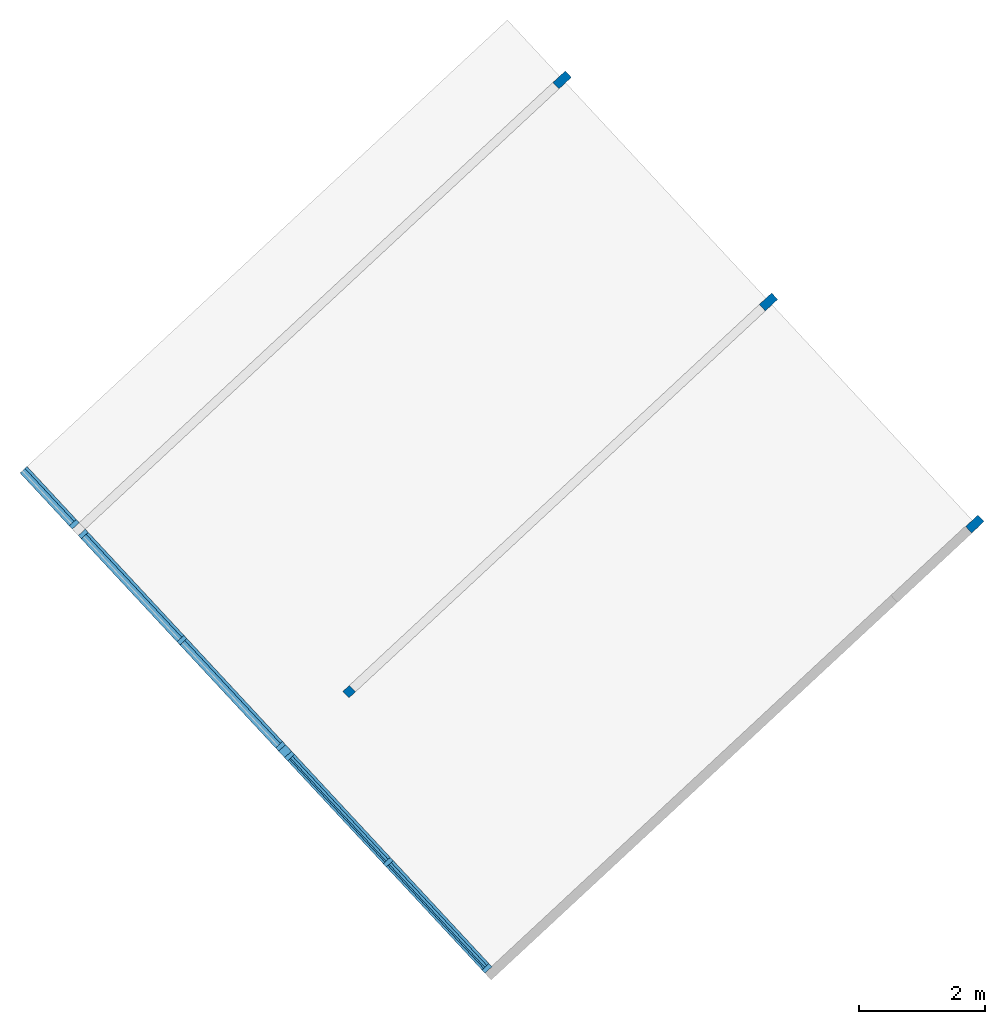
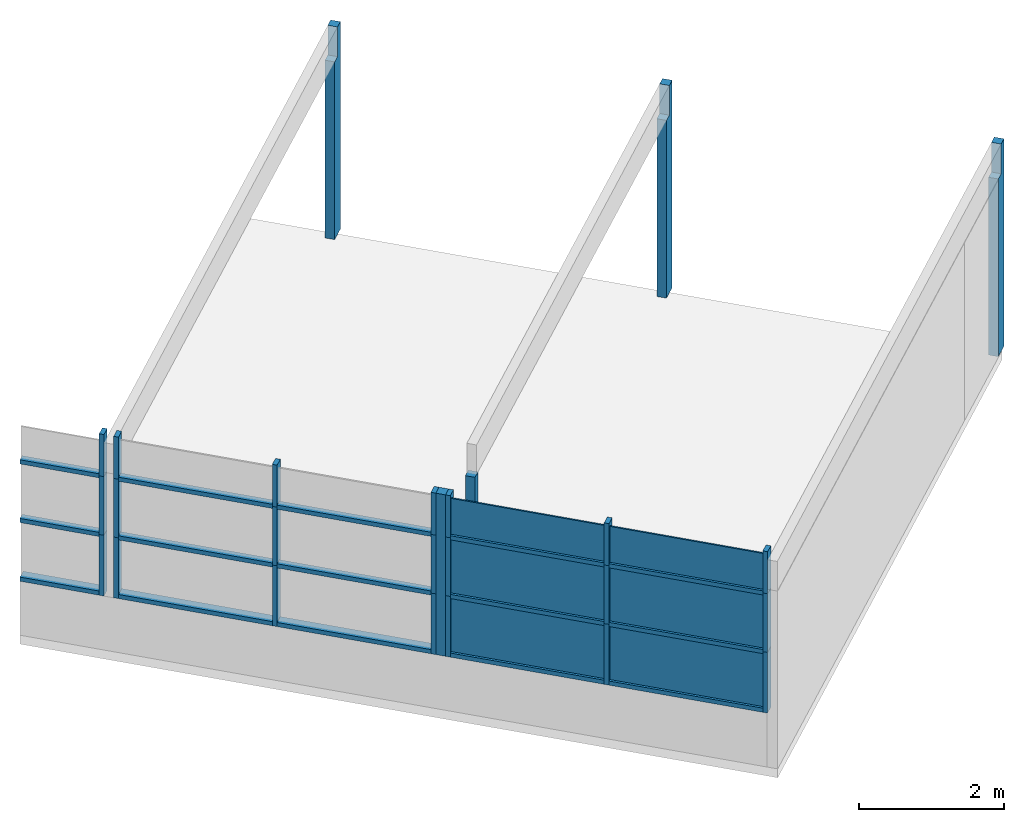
# One storey, part 1 of 3: 36 members, 7 plates, 4 columns, 1 element without a shape of its own.
"""IFC2X3 building model written with IfcOpenShell, lengths in millimetres."""

import ifcopenshell
import ifcopenshell.guid

model = None  # the IFC model being written
_history = None  # IfcOwnerHistory: only IFC2X3 demands one
_inside = {}  # id of a spatial element -> (the spatial element, [elements in it])
_under = {}  # id of a project, library or spatial element -> (it, [spatial elements below it])
_declared = {}  # id of a project -> (the project, [libraries it declares])
_typed = {}  # id of a type object -> (the type object, [elements of that type])
_made_of = {}  # id of a material, layer set ... -> (it, [elements and type objects made of it])


def new_model(schema):
    """Start an empty IFC model of exactly this schema.

    Asked for "IFC4X3", IfcOpenShell would pick the latest addendum, in which some entities
    have other attributes; the version numbers below select the first issue.
    IFC2X3 requires an IfcOwnerHistory on every rooted entity: one is made here for all.
    """
    global model, _history
    if schema == "IFC4X3":
        model = ifcopenshell.file(schema_version=(4, 3, 0, 0))
    else:
        model = ifcopenshell.file(schema=schema)
    _inside.clear()
    _under.clear()
    _declared.clear()
    _typed.clear()
    _made_of.clear()
    _history = None
    if model.schema == "IFC2X3":
        org = make("IfcOrganization", Name="unknown")
        user = make(
            "IfcPersonAndOrganization",
            ThePerson=make("IfcPerson", FamilyName="unknown"),
            TheOrganization=org,
        )
        app = make(
            "IfcApplication",
            ApplicationDeveloper=org,
            Version="unknown",
            ApplicationFullName="unknown",
            ApplicationIdentifier="unknown",
        )
        _history = make(
            "IfcOwnerHistory",
            OwningUser=user,
            OwningApplication=app,
            ChangeAction="ADDED",
            CreationDate=0,
        )
    return model


def make(cls, **values):
    """One entity of the class cls with the attributes given. An attribute that is None is left unset."""
    return model.create_entity(
        cls, **{name: value for name, value in values.items() if value is not None}
    )


def entity(cls, *values):
    """Any entity or typed value of the class cls, its attributes in the order of the schema. None: left unset."""
    e = model.create_entity(cls)
    for i, value in enumerate(values):
        if value is not None:
            e[i] = value
    return e


def rooted(cls, **values):
    """An entity with a GlobalId (a new one), such as an element, a storey or a relation."""
    return make(cls, GlobalId=ifcopenshell.guid.new(), OwnerHistory=_history, **values)


def si_unit(unit_type, name, prefix=None):
    """IfcSIUnit, for example si_unit("LENGTHUNIT", "METRE", prefix="MILLI")."""
    return make("IfcSIUnit", UnitType=unit_type, Prefix=prefix, Name=name)


def converted_unit(unit_type, name, factor, base, dimensions=None, offset=None):
    """IfcConversionBasedUnit, such as the inch: factor (a typed value) times the base unit."""
    return make(
        "IfcConversionBasedUnit"
        if offset is None
        else "IfcConversionBasedUnitWithOffset",
        ConversionOffset=offset,
        Dimensions=None
        if dimensions is None
        else entity("IfcDimensionalExponents", *dimensions),
        UnitType=unit_type,
        Name=name,
        ConversionFactor=make(
            "IfcMeasureWithUnit", ValueComponent=factor, UnitComponent=base
        ),
    )


def derived_unit(unit_type, elements):
    """IfcDerivedUnit: a product of units, each with its exponent."""
    return make(
        "IfcDerivedUnit",
        Elements=[
            make("IfcDerivedUnitElement", Unit=unit, Exponent=power)
            for unit, power in elements
        ],
        UnitType=unit_type,
    )


def assignment(units):
    """IfcUnitAssignment: the units of a project."""
    return None if units is None else make("IfcUnitAssignment", Units=units)


def point(xyz):
    """IfcCartesianPoint."""
    return None if xyz is None else make("IfcCartesianPoint", Coordinates=xyz)


def direction(xyz):
    """IfcDirection."""
    return None if xyz is None else make("IfcDirection", DirectionRatios=xyz)


def frame(location, z_axis=None, x_axis=None):
    """IfcAxis2Placement3D, a coordinate frame: its origin and axes. An axis left out is left unset."""
    return make(
        "IfcAxis2Placement3D",
        Location=point(location),
        Axis=direction(z_axis),
        RefDirection=direction(x_axis),
    )


def frame_2d(location, x_axis=None):
    """IfcAxis2Placement2D, a coordinate frame in the plane: its origin and x axis."""
    return make(
        "IfcAxis2Placement2D", Location=point(location), RefDirection=direction(x_axis)
    )


def origin():
    """The frame at (0, 0, 0) with its axes left unset."""
    return frame((0.0, 0.0, 0.0))


def origin_with_axes():
    """The frame at (0, 0, 0) with the z axis (0, 0, 1) and the x axis (1, 0, 0) written out."""
    return frame((0.0, 0.0, 0.0), z_axis=(0.0, 0.0, 1.0), x_axis=(1.0, 0.0, 0.0))


def origin_2d_with_axis():
    """The frame at (0, 0) in the plane with the x axis (1, 0) written out."""
    return frame_2d((0.0, 0.0), x_axis=(1.0, 0.0))


def place(relative_to, where):
    """IfcLocalPlacement: puts the frame where relative to a parent placement (None: the world)."""
    return make(
        "IfcLocalPlacement", PlacementRelTo=relative_to, RelativePlacement=where
    )


def context(
    kind, dimensions, precision=None, world=None, true_north=None, identifier=None
):
    """IfcGeometricRepresentationContext, for example the 3D "Model" context."""
    return make(
        "IfcGeometricRepresentationContext",
        ContextIdentifier=identifier,
        ContextType=kind,
        CoordinateSpaceDimension=dimensions,
        Precision=precision,
        WorldCoordinateSystem=world,
        TrueNorth=true_north,
    )


def subcontext(parent, identifier, kind, view, scale=None):
    """IfcGeometricRepresentationSubContext, for example "Body" below "Model"."""
    return make(
        "IfcGeometricRepresentationSubContext",
        ContextIdentifier=identifier,
        ContextType=kind,
        ParentContext=parent,
        TargetScale=scale,
        TargetView=view,
    )


def project(units=None, contexts=None):
    """IfcProject with its units and contexts."""
    return rooted(
        "IfcProject",
        Name="project",
        RepresentationContexts=contexts,
        UnitsInContext=assignment(units),
    )


def spatial(cls, under=None, at=None, **own):
    """A site, building, storey or space (cls), placed at a placement, below another one or the project."""
    s = rooted(cls, ObjectPlacement=at, **own)
    if under is not None:
        _under.setdefault(under.id(), (under, []))[1].append(s)
    return s


def profile(cls, at=None, kind="AREA", **sizes):
    """A parametric profile (cls). Its sizes go by their IFC names, for example OverallWidth=200.0."""
    return make(cls, ProfileType=kind, Position=at, **sizes)


def rectangle(**sizes):
    """IfcRectangleProfileDef."""
    return profile("IfcRectangleProfileDef", **sizes)


def extrude(swept, where, along, depth):
    """IfcExtrudedAreaSolid: the profile swept, set in the frame where, extruded along a direction by depth."""
    return make(
        "IfcExtrudedAreaSolid",
        SweptArea=swept,
        Position=where,
        ExtrudedDirection=direction(along),
        Depth=depth,
    )


def faces_of(points, faces, orient=None, outer=None):
    """IfcFace entities. A face is a list of loops; a loop is a list of indices into points, from 0.

    orient and outer hold one flag for each loop. By default every Orientation is true, the
    first loop of a face is its IfcFaceOuterBound and the others are IfcFaceBound.
    """
    made = []
    for i, loops in enumerate(faces):
        bounds = []
        for j, loop in enumerate(loops):
            is_outer = j == 0 if outer is None else outer[i][j]
            bounds.append(
                make(
                    "IfcFaceOuterBound" if is_outer else "IfcFaceBound",
                    Bound=make("IfcPolyLoop", Polygon=[points[k] for k in loop]),
                    Orientation=True if orient is None else orient[i][j],
                )
            )
        made.append(make("IfcFace", Bounds=bounds))
    return made


def faceted_brep(points, faces, orient=None, outer=None, voids=None):
    """IfcFacetedBrep: a solid bounded by flat faces; with voids (closed shells), ...WithVoids."""
    shared = [point(p) for p in points]
    hull = make("IfcClosedShell", CfsFaces=faces_of(shared, faces, orient, outer))
    if voids is None:
        return make("IfcFacetedBrep", Outer=hull)
    return make(
        "IfcFacetedBrepWithVoids",
        Outer=hull,
        Voids=[
            make(cls, CfsFaces=faces_of(shared, fs, o, b)) for cls, fs, o, b in voids
        ],
    )


def shape(context_of_items, identifier, shape_type, items):
    """IfcShapeRepresentation: the items that make up one representation, for example the "Body"."""
    return make(
        "IfcShapeRepresentation",
        ContextOfItems=context_of_items,
        RepresentationIdentifier=identifier,
        RepresentationType=shape_type,
        Items=items,
    )


def source(mapping_origin, context_of_items, identifier, shape_type, items):
    """IfcRepresentationMap: a shape defined once, which mapped items show again and again."""
    return make(
        "IfcRepresentationMap",
        MappingOrigin=mapping_origin,
        MappedRepresentation=shape(context_of_items, identifier, shape_type, items),
    )


def transform(
    local_origin,
    x_axis=None,
    y_axis=None,
    z_axis=None,
    scale=None,
    scale2=None,
    scale3=None,
    uniform=True,
):
    """IfcCartesianTransformationOperator3D, or its non-uniform kind. x_axis, y_axis, z_axis: its Axis1, 2, 3."""
    if uniform:
        return make(
            "IfcCartesianTransformationOperator3D",
            Axis1=direction(x_axis),
            Axis2=direction(y_axis),
            LocalOrigin=point(local_origin),
            Scale=scale,
            Axis3=direction(z_axis),
        )
    return make(
        "IfcCartesianTransformationOperator3DnonUniform",
        Axis1=direction(x_axis),
        Axis2=direction(y_axis),
        LocalOrigin=point(local_origin),
        Scale=scale,
        Axis3=direction(z_axis),
        Scale2=scale2,
        Scale3=scale3,
    )


def mapped(mapping_source, mapping_target):
    """IfcMappedItem: shows the shape of a source again, moved by a transform."""
    return make(
        "IfcMappedItem", MappingSource=mapping_source, MappingTarget=mapping_target
    )


def material(Name=None, Category=None):
    """IfcMaterial."""
    return make("IfcMaterial", Name=Name, Category=Category)


def made_of(thing, what):
    """Note that an element or type object is made of a material, layer set ...; save() writes the relation."""
    if what is not None:
        _made_of.setdefault(what.id(), (what, []))[1].append(thing)
    return thing


def type_object(cls, material=None, **own):
    """A type object (cls), such as IfcWallType, which elements share."""
    return made_of(rooted(cls, **own), material)


def element(
    cls,
    number,
    at=None,
    inside=None,
    cuts=None,
    type_object=None,
    material=None,
    context=None,
    identifier="Body",
    shape_type=None,
    held_by="IfcProductDefinitionShape",
    body=None,
    shapes=None,
    **own,
):
    """One element of the class cls, such as IfcWall. Its Tag is "e" and its number.

    at: its placement. inside: the storey or other place that contains it. cuts: it is an
    opening in that element (IfcRelVoidsElement). A single representation is given by context,
    identifier, shape_type and body (its items); several are given by shapes. held_by: the class
    of the entity that holds the representations. save() writes the other relations.
    """
    e = rooted(cls, Tag="e%d" % number, ObjectPlacement=at, **own)
    if body is not None:
        shapes = [shape(context, identifier, shape_type, body)]
    if shapes is not None:
        e.Representation = make(held_by, Representations=shapes)
    if inside is not None:
        _inside.setdefault(inside.id(), (inside, []))[1].append(e)
    if cuts is not None:
        rooted(
            "IfcRelVoidsElement", RelatingBuildingElement=cuts, RelatedOpeningElement=e
        )
    if type_object is not None:
        _typed.setdefault(type_object.id(), (type_object, []))[1].append(e)
    return made_of(e, material)


def aggregate(whole, parts):
    """IfcRelAggregates: a whole, such as a stair, and the parts it consists of."""
    return rooted("IfcRelAggregates", RelatingObject=whole, RelatedObjects=parts)


def save(model, path):
    """Write the relations noted so far, then the file.

    IfcRelAggregates (storeys below a building ...), IfcRelContainedInSpatialStructure (elements
    in a storey), IfcRelDefinesByType, IfcRelAssociatesMaterial and IfcRelDeclares: one each for
    every whole, place, type object, material and project.
    """
    for whole, parts in _under.values():
        aggregate(whole, parts)
    for where, things in _inside.values():
        rooted(
            "IfcRelContainedInSpatialStructure",
            RelatedElements=things,
            RelatingStructure=where,
        )
    for kind, things in _typed.values():
        rooted("IfcRelDefinesByType", RelatedObjects=things, RelatingType=kind)
    for what, things in _made_of.values():
        rooted("IfcRelAssociatesMaterial", RelatedObjects=things, RelatingMaterial=what)
    for by, libraries in _declared.values():
        rooted("IfcRelDeclares", RelatingContext=by, RelatedDefinitions=libraries)
    model.write(path)


model = new_model("IFC2X3")

# Units and contexts
model_context = context("Model", 3, precision=0.01, world=origin(), true_north=direction((6.12323399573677e-17, 1.0)))
plan_context = context("Plan", 3, precision=1e-05, world=origin_with_axes())
body_context = subcontext(model_context, "Body", "Model", "MODEL_VIEW")
ifc_project = project(units=[converted_unit("PLANEANGLEUNIT", "DEGREE", entity("IfcPositiveLengthMeasure", 0.0174532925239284), si_unit("PLANEANGLEUNIT", "RADIAN"), dimensions=[0, 0, 0, 0, 0, 0, 0]), si_unit("AREAUNIT", "SQUARE_METRE"), si_unit("LENGTHUNIT", "METRE", prefix="MILLI"), si_unit("MASSUNIT", "GRAM", prefix="KILO"), si_unit("POWERUNIT", "WATT"), si_unit("PRESSUREUNIT", "PASCAL", prefix="KILO"), si_unit("FORCEUNIT", "NEWTON", prefix="KILO"), si_unit("ELECTRICVOLTAGEUNIT", "VOLT"), si_unit("ELECTRICCURRENTUNIT", "AMPERE"), si_unit("THERMODYNAMICTEMPERATUREUNIT", "DEGREE_CELSIUS"), si_unit("TIMEUNIT", "SECOND"), si_unit("VOLUMEUNIT", "CUBIC_METRE"), derived_unit("LINEARVELOCITYUNIT", [(si_unit("LENGTHUNIT", "METRE"), 1), (si_unit("TIMEUNIT", "SECOND"), -1)]), derived_unit("VOLUMETRICFLOWRATEUNIT", [(si_unit("VOLUMEUNIT", "CUBIC_METRE"), 1), (si_unit("TIMEUNIT", "SECOND"), -1)]), derived_unit("THERMALTRANSMITTANCEUNIT", [(si_unit("POWERUNIT", "WATT"), 1), (si_unit("THERMODYNAMICTEMPERATUREUNIT", "KELVIN"), -1), (si_unit("AREAUNIT", "SQUARE_METRE"), -1)]), derived_unit("SOUNDPRESSUREUNIT", [(si_unit("PRESSUREUNIT", "PASCAL"), 1)])], contexts=[model_context, plan_context])

# Site, building, storey
site_placement = place(None, frame((159880.25068742, 140851.808625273, 0.0), z_axis=(0.0, 0.0, 1.0), x_axis=(-0.680735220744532, 0.732529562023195, 0.0)))
site = spatial("IfcSite", under=ifc_project, at=site_placement, Name="Default", CompositionType="ELEMENT")
building_placement = place(site_placement, origin_with_axes())
building = spatial("IfcBuilding", under=site, at=building_placement, CompositionType="ELEMENT")
storey_placement = place(building_placement, frame((0.0, 0.0, 4900.0), z_axis=(0.0, 0.0, 1.0), x_axis=(1.0, 0.0, 0.0)))
storey = spatial("IfcBuildingStorey", under=building, at=storey_placement, Name="001-01", CompositionType="ELEMENT", Elevation=4900.0)

# Columns
ifc_material_1 = material(Name="TIMBER/C30")
column_type_1 = type_object("IfcColumnType", Name="140*140:140*140", PredefinedType="COLUMN", material=ifc_material_1)
shared_shape_1 = source(origin(), body_context, "Body", "SweptSolid", [
    extrude(rectangle(XDim=140.000000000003, YDim=139.999999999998, at=frame_2d((0.0, -2.1600499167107e-12), x_axis=(1.0, 0.0))), frame((52800.0000006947, 28800.0000000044, 4900.00000000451)), (0.0, 0.0, 1.0), 3000.0),
])
column_1_placement = place(storey_placement, frame((0.0, 0.0, -4900.0), z_axis=(0.0, 0.0, 1.0), x_axis=(1.0, 0.0, 0.0)))
element("IfcColumn", 1, at=column_1_placement, inside=storey, type_object=column_type_1, material=ifc_material_1, Name="140*140:140*140", ObjectType="140*140:140*140", context=body_context, shape_type="MappedRepresentation", body=[
    mapped(shared_shape_1, transform((0.0, 0.0, 0.0), scale=1.0)),
])
column_type_2 = type_object("IfcColumnType", Name="267*140 51453:267*140 51453", PredefinedType="COLUMN", material=ifc_material_1)
column_2_placement = place(storey_placement, frame((0.0, 0.0, -4900.0), z_axis=(0.0, 0.0, 1.0), x_axis=(1.0, 0.0, 0.0)))
element("IfcColumn", 2, at=column_2_placement, inside=storey, type_object=column_type_2, Name="267*140 51453:267*140 51453", ObjectType="267*140 51453:267*140 51453", context=body_context, shape_type="Brep", body=[
    faceted_brep([(47930.0000006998, 19601.4999999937, 4900.00000000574), (48070.0000006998, 19601.4999999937, 4900.00000000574), (48070.0000006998, 19868.4999999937, 4900.00000000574), (47930.0000006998, 19868.4999999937, 4900.00000000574), (48070.0000006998, 19868.4999999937, 7900.00000000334), (47930.0000006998, 19868.4999999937, 7900.00000000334), (48070.0000006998, 19734.9999999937, 7900.00000000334), (47930.0000006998, 19734.9999999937, 7900.00000000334), (48070.0000006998, 19734.9999999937, 8400.0), (47930.0000006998, 19734.9999999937, 8400.0), (47930.0000006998, 19601.4999999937, 8400.0), (48070.0000006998, 19601.4999999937, 8400.0)], [[[0, 1, 2, 3]], [[3, 2, 4, 5]], [[5, 4, 6, 7]], [[8, 9, 7, 6]], [[10, 11, 1, 0]], [[9, 10, 0, 3, 5, 7]], [[11, 8, 6, 4, 2, 1]], [[11, 10, 9, 8]]], orient=[[False], [False], [False], [False], [False], [False], [False], [False]]),
])
column_type_3 = type_object("IfcColumnType", Name="267*140 51453:267*140 51453", PredefinedType="COLUMN", material=ifc_material_1)
column_3_placement = place(storey_placement, frame((0.0, 0.0, -4900.0), z_axis=(0.0, 0.0, 1.0), x_axis=(1.0, 0.0, 0.0)))
element("IfcColumn", 3, at=column_3_placement, inside=storey, type_object=column_type_3, Name="267*140 51453:267*140 51453", ObjectType="267*140 51453:267*140 51453", context=body_context, shape_type="Brep", body=[
    faceted_brep([(52730.0000006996, 19601.4999999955, 4900.00000000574), (52870.0000006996, 19601.4999999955, 4900.00000000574), (52870.0000006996, 19868.4999999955, 4900.00000000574), (52730.0000006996, 19868.4999999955, 4900.00000000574), (52870.0000006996, 19868.4999999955, 7900.00000000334), (52730.0000006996, 19868.4999999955, 7900.00000000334), (52870.0000006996, 19734.9999999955, 7900.00000000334), (52730.0000006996, 19734.9999999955, 7900.00000000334), (52870.0000006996, 19734.9999999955, 8400.0), (52730.0000006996, 19734.9999999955, 8400.0), (52730.0000006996, 19601.4999999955, 8400.0), (52870.0000006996, 19601.4999999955, 8400.0)], [[[0, 1, 2, 3]], [[3, 2, 4, 5]], [[5, 4, 6, 7]], [[8, 9, 7, 6]], [[10, 11, 1, 0]], [[9, 10, 0, 3, 5, 7]], [[11, 8, 6, 4, 2, 1]], [[11, 10, 9, 8]]], orient=[[False], [False], [False], [False], [False], [False], [False], [False]]),
])
column_type_4 = type_object("IfcColumnType", Name="267*140 51453:267*140 51453", PredefinedType="COLUMN", material=ifc_material_1)
column_4_placement = place(storey_placement, frame((0.0, 0.0, -4900.0), z_axis=(0.0, 0.0, 1.0), x_axis=(1.0, 0.0, 0.0)))
element("IfcColumn", 4, at=column_4_placement, inside=storey, type_object=column_type_4, Name="267*140 51453:267*140 51453", ObjectType="267*140 51453:267*140 51453", context=body_context, shape_type="Brep", body=[
    faceted_brep([(57530.0000006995, 19601.4999999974, 4900.00000000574), (57670.0000006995, 19601.4999999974, 4900.00000000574), (57670.0000006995, 19868.4999999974, 4900.00000000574), (57530.0000006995, 19868.4999999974, 4900.00000000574), (57670.0000006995, 19868.4999999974, 7900.00000000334), (57530.0000006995, 19868.4999999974, 7900.00000000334), (57670.0000006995, 19734.9999999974, 7900.00000000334), (57530.0000006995, 19734.9999999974, 7900.00000000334), (57670.0000006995, 19734.9999999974, 8400.0), (57530.0000006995, 19734.9999999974, 8400.0), (57530.0000006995, 19601.4999999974, 8400.0), (57670.0000006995, 19601.4999999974, 8400.0)], [[[0, 1, 2, 3]], [[3, 2, 4, 5]], [[5, 4, 6, 7]], [[8, 9, 7, 6]], [[10, 11, 1, 0]], [[9, 10, 0, 3, 5, 7]], [[11, 8, 6, 4, 2, 1]], [[11, 10, 9, 8]]], orient=[[False], [False], [False], [False], [False], [False], [False], [False]]),
])

# Curtain wall, members, plates
curtain_wall_type = type_object("IfcCurtainWallType", Name="Curtain Wall:Curtain Wall 1", PredefinedType="NOTDEFINED")
curtain_wall_placement = place(storey_placement, frame((0.0, 0.0, -4900.0), z_axis=(0.0, 0.0, 1.0), x_axis=(1.0, 0.0, 0.0)))
curtain_wall = element("IfcCurtainWall", 5, at=curtain_wall_placement, inside=storey, type_object=curtain_wall_type, Name="Curtain Wall:Curtain Wall 1", ObjectType="Curtain Wall:Curtain Wall 1")
ifc_material_2 = material(Name="Aluminium")
member_type_1 = type_object("IfcMemberType", Name="Rectangular Mullion:70x150mm Aluminium", PredefinedType="MULLION", material=ifc_material_2)
shared_shape_2 = source(origin(), body_context, "Body", "SweptSolid", [
    extrude(rectangle(XDim=70.0, YDim=150.0, at=origin_2d_with_axis()), frame((0.0, 0.0, -1025.0), z_axis=(0.0, 0.0, 1.0), x_axis=(-1.0, 0.0, 0.0)), (0.0, 0.0, 1.0), 1025.0),
])
member_1_placement = place(curtain_wall_placement, frame((57495.0000006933, 30184.9999999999, 5810.0), z_axis=(0.0, 0.0, -1.0), x_axis=(1.0, 0.0, 0.0)))
member_1 = element("IfcMember", 6, at=member_1_placement, type_object=member_type_1, material=ifc_material_2, Name="Rectangular Mullion:70x150mm Aluminium", ObjectType="Rectangular Mullion:70x150mm Aluminium", context=body_context, shape_type="MappedRepresentation", body=[
    mapped(shared_shape_2, transform((0.0, 0.0, 0.0), scale=1.0)),
])
member_2_placement = place(curtain_wall_placement, frame((57705.0000006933, 30185.0, 5810.0), z_axis=(0.0, 0.0, -1.0), x_axis=(1.0, 0.0, 0.0)))
member_2 = element("IfcMember", 7, at=member_2_placement, type_object=member_type_1, material=ifc_material_2, Name="Rectangular Mullion:70x150mm Aluminium", ObjectType="Rectangular Mullion:70x150mm Aluminium", context=body_context, shape_type="MappedRepresentation", body=[
    mapped(shared_shape_2, transform((0.0, 0.0, 0.0), scale=1.0)),
])
member_3_placement = place(curtain_wall_placement, frame((52905.0000006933, 30185.0, 5810.0), z_axis=(0.0, 0.0, -1.0), x_axis=(1.0, 0.0, 0.0)))
member_3 = element("IfcMember", 8, at=member_3_placement, type_object=member_type_1, material=ifc_material_2, Name="Rectangular Mullion:70x150mm Aluminium", ObjectType="Rectangular Mullion:70x150mm Aluminium", context=body_context, shape_type="MappedRepresentation", body=[
    mapped(shared_shape_2, transform((0.0, 0.0, 0.0), scale=1.0)),
])
member_4_placement = place(curtain_wall_placement, frame((52695.0000006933, 30185.0, 5810.0), z_axis=(0.0, 0.0, -1.0), x_axis=(1.0, 0.0, 0.0)))
member_4 = element("IfcMember", 9, at=member_4_placement, type_object=member_type_1, material=ifc_material_2, Name="Rectangular Mullion:70x150mm Aluminium", ObjectType="Rectangular Mullion:70x150mm Aluminium", context=body_context, shape_type="MappedRepresentation", body=[
    mapped(shared_shape_2, transform((0.0, 0.0, 0.0), scale=1.0)),
])
member_5_placement = place(curtain_wall_placement, frame((55200.0, 30185.0, 5810.0), z_axis=(0.0, 0.0, -1.0), x_axis=(1.0, 0.0, 0.0)))
member_5 = element("IfcMember", 10, at=member_5_placement, type_object=member_type_1, material=ifc_material_2, Name="Rectangular Mullion:70x150mm Aluminium", ObjectType="Rectangular Mullion:70x150mm Aluminium", context=body_context, shape_type="MappedRepresentation", body=[
    mapped(shared_shape_2, transform((0.0, 0.0, 0.0), scale=1.0)),
])
member_6_placement = place(curtain_wall_placement, frame((50400.0000006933, 30185.0, 5810.0), z_axis=(0.0, 0.0, -1.0), x_axis=(1.0, 0.0, 0.0)))
member_6 = element("IfcMember", 11, at=member_6_placement, type_object=member_type_1, material=ifc_material_2, Name="Rectangular Mullion:70x150mm Aluminium", ObjectType="Rectangular Mullion:70x150mm Aluminium", context=body_context, shape_type="MappedRepresentation", body=[
    mapped(shared_shape_2, transform((0.0, 0.0, 0.0), scale=1.0)),
])
member_type_2 = type_object("IfcMemberType", Name="Rectangular Mullion:70x150mm Aluminium", PredefinedType="MULLION", material=ifc_material_2)
shared_shape_3 = source(origin(), body_context, "Body", "SweptSolid", [
    extrude(rectangle(XDim=70.0, YDim=150.0, at=origin_2d_with_axis()), frame((-35.0, 0.0, -2224.9999986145), z_axis=(0.0, 0.0, 1.0), x_axis=(-1.0, 0.0, 0.0)), (0.0, 0.0, 1.0), 2224.9999986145),
])
member_7_placement = place(curtain_wall_placement, frame((52940.0000006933, 30185.0, 5810.0), z_axis=(-1.0, 0.0, 0.0), x_axis=(0.0, 0.0, -1.0)))
member_7 = element("IfcMember", 12, at=member_7_placement, type_object=member_type_2, material=ifc_material_2, Name="Rectangular Mullion:70x150mm Aluminium", ObjectType="Rectangular Mullion:70x150mm Aluminium", context=body_context, shape_type="MappedRepresentation", body=[
    mapped(shared_shape_3, transform((0.0, 0.0, 0.0), scale=1.0)),
])
member_8_placement = place(curtain_wall_placement, frame((55235.0, 30185.0, 5810.0), z_axis=(-1.0, 0.0, 0.0), x_axis=(0.0, 0.0, -1.0)))
member_8 = element("IfcMember", 13, at=member_8_placement, type_object=member_type_2, material=ifc_material_2, Name="Rectangular Mullion:70x150mm Aluminium", ObjectType="Rectangular Mullion:70x150mm Aluminium", context=body_context, shape_type="MappedRepresentation", body=[
    mapped(shared_shape_3, transform((0.0, 0.0, 0.0), scale=1.0)),
])
member_9_placement = place(curtain_wall_placement, frame((48140.0000013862, 30185.0, 5810.0), z_axis=(-1.0, 0.0, 0.0), x_axis=(0.0, 0.0, -1.0)))
member_9 = element("IfcMember", 14, at=member_9_placement, type_object=member_type_2, material=ifc_material_2, Name="Rectangular Mullion:70x150mm Aluminium", ObjectType="Rectangular Mullion:70x150mm Aluminium", context=body_context, shape_type="MappedRepresentation", body=[
    mapped(shared_shape_3, transform((0.0, 0.0, 0.0), scale=1.0)),
])
member_10_placement = place(curtain_wall_placement, frame((50435.0000006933, 30185.0, 5810.0), z_axis=(-1.0, 0.0, 0.0), x_axis=(0.0, 0.0, -1.0)))
member_10 = element("IfcMember", 15, at=member_10_placement, type_object=member_type_2, material=ifc_material_2, Name="Rectangular Mullion:70x150mm Aluminium", ObjectType="Rectangular Mullion:70x150mm Aluminium", context=body_context, shape_type="MappedRepresentation", body=[
    mapped(shared_shape_3, transform((0.0, 0.0, 0.0), scale=1.0)),
])
member_type_3 = type_object("IfcMemberType", Name="Rectangular Mullion:70x150mm Aluminium", PredefinedType="MULLION", material=ifc_material_2)
shared_shape_4 = source(origin(), body_context, "Body", "SweptSolid", [
    extrude(rectangle(XDim=70.0, YDim=150.0, at=origin_2d_with_axis()), frame((0.0, 0.0, -990.0), z_axis=(0.0, 0.0, 1.0), x_axis=(-1.0, 0.0, 0.0)), (0.0, 0.0, 1.0), 990.0),
])
member_11_placement = place(curtain_wall_placement, frame((57495.0000006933, 30184.9999999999, 6835.0), z_axis=(0.0, 0.0, -1.0), x_axis=(1.0, 0.0, 0.0)))
member_11 = element("IfcMember", 16, at=member_11_placement, type_object=member_type_3, material=ifc_material_2, Name="Rectangular Mullion:70x150mm Aluminium", ObjectType="Rectangular Mullion:70x150mm Aluminium", context=body_context, shape_type="MappedRepresentation", body=[
    mapped(shared_shape_4, transform((0.0, 0.0, 0.0), scale=1.0)),
])
member_12_placement = place(curtain_wall_placement, frame((57705.0000006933, 30185.0, 6835.0), z_axis=(0.0, 0.0, -1.0), x_axis=(1.0, 0.0, 0.0)))
member_12 = element("IfcMember", 17, at=member_12_placement, type_object=member_type_3, material=ifc_material_2, Name="Rectangular Mullion:70x150mm Aluminium", ObjectType="Rectangular Mullion:70x150mm Aluminium", context=body_context, shape_type="MappedRepresentation", body=[
    mapped(shared_shape_4, transform((0.0, 0.0, 0.0), scale=1.0)),
])
member_13_placement = place(curtain_wall_placement, frame((52905.0000006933, 30185.0, 6835.0), z_axis=(0.0, 0.0, -1.0), x_axis=(1.0, 0.0, 0.0)))
member_13 = element("IfcMember", 18, at=member_13_placement, type_object=member_type_3, material=ifc_material_2, Name="Rectangular Mullion:70x150mm Aluminium", ObjectType="Rectangular Mullion:70x150mm Aluminium", context=body_context, shape_type="MappedRepresentation", body=[
    mapped(shared_shape_4, transform((0.0, 0.0, 0.0), scale=1.0)),
])
member_14_placement = place(curtain_wall_placement, frame((52695.0000006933, 30185.0, 6835.0), z_axis=(0.0, 0.0, -1.0), x_axis=(1.0, 0.0, 0.0)))
member_14 = element("IfcMember", 19, at=member_14_placement, type_object=member_type_3, material=ifc_material_2, Name="Rectangular Mullion:70x150mm Aluminium", ObjectType="Rectangular Mullion:70x150mm Aluminium", context=body_context, shape_type="MappedRepresentation", body=[
    mapped(shared_shape_4, transform((0.0, 0.0, 0.0), scale=1.0)),
])
member_15_placement = place(curtain_wall_placement, frame((55200.0, 30185.0, 6835.0), z_axis=(0.0, 0.0, -1.0), x_axis=(1.0, 0.0, 0.0)))
member_15 = element("IfcMember", 20, at=member_15_placement, type_object=member_type_3, material=ifc_material_2, Name="Rectangular Mullion:70x150mm Aluminium", ObjectType="Rectangular Mullion:70x150mm Aluminium", context=body_context, shape_type="MappedRepresentation", body=[
    mapped(shared_shape_4, transform((0.0, 0.0, 0.0), scale=1.0)),
])
member_16_placement = place(curtain_wall_placement, frame((50400.0000006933, 30185.0, 6835.0), z_axis=(0.0, 0.0, -1.0), x_axis=(1.0, 0.0, 0.0)))
member_16 = element("IfcMember", 21, at=member_16_placement, type_object=member_type_3, material=ifc_material_2, Name="Rectangular Mullion:70x150mm Aluminium", ObjectType="Rectangular Mullion:70x150mm Aluminium", context=body_context, shape_type="MappedRepresentation", body=[
    mapped(shared_shape_4, transform((0.0, 0.0, 0.0), scale=1.0)),
])
member_type_4 = type_object("IfcMemberType", Name="Rectangular Mullion:70x105mm Aluminium", PredefinedType="MULLION", material=ifc_material_2)
shared_shape_5 = source(origin(), body_context, "Body", "SweptSolid", [
    extrude(rectangle(XDim=70.0, YDim=105.0, at=origin_2d_with_axis()), frame((0.0, -22.5, -2225.00000069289), z_axis=(0.0, 0.0, 1.0), x_axis=(-1.0, 0.0, 0.0)), (0.0, 0.0, 1.0), 2225.00000069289),
])
member_17_placement = place(curtain_wall_placement, frame((57460.0000006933, 30184.9999999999, 6835.0), z_axis=(1.0, 0.0, 0.0), x_axis=(0.0, 0.0, 1.0)))
member_17 = element("IfcMember", 22, at=member_17_placement, type_object=member_type_4, material=ifc_material_2, Name="Rectangular Mullion:70x105mm Aluminium", ObjectType="Rectangular Mullion:70x105mm Aluminium", context=body_context, shape_type="MappedRepresentation", body=[
    mapped(shared_shape_5, transform((0.0, 0.0, 0.0), scale=1.0)),
])
member_18_placement = place(curtain_wall_placement, frame((55165.0, 30185.0, 6835.0), z_axis=(1.0, 0.0, 0.0), x_axis=(0.0, 0.0, 1.0)))
member_18 = element("IfcMember", 23, at=member_18_placement, type_object=member_type_4, material=ifc_material_2, Name="Rectangular Mullion:70x105mm Aluminium", ObjectType="Rectangular Mullion:70x105mm Aluminium", context=body_context, shape_type="MappedRepresentation", body=[
    mapped(shared_shape_5, transform((0.0, 0.0, 0.0), scale=1.0)),
])
member_19_placement = place(curtain_wall_placement, frame((50365.0000006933, 30185.0, 6835.0), z_axis=(1.0, 0.0, 0.0), x_axis=(0.0, 0.0, 1.0)))
member_19 = element("IfcMember", 24, at=member_19_placement, type_object=member_type_4, material=ifc_material_2, Name="Rectangular Mullion:70x105mm Aluminium", ObjectType="Rectangular Mullion:70x105mm Aluminium", context=body_context, shape_type="MappedRepresentation", body=[
    mapped(shared_shape_5, transform((0.0, 0.0, 0.0), scale=1.0)),
])
member_20_placement = place(curtain_wall_placement, frame((52660.0000006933, 30185.0, 6835.0), z_axis=(1.0, 0.0, 0.0), x_axis=(0.0, 0.0, 1.0)))
member_20 = element("IfcMember", 25, at=member_20_placement, type_object=member_type_4, material=ifc_material_2, Name="Rectangular Mullion:70x105mm Aluminium", ObjectType="Rectangular Mullion:70x105mm Aluminium", context=body_context, shape_type="MappedRepresentation", body=[
    mapped(shared_shape_5, transform((0.0, 0.0, 0.0), scale=1.0)),
])
member_21_placement = place(curtain_wall_placement, frame((50365.0000006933, 30185.0, 7825.0), z_axis=(1.0, 0.0, 0.0), x_axis=(0.0, 0.0, 1.0)))
member_21 = element("IfcMember", 26, at=member_21_placement, type_object=member_type_4, material=ifc_material_2, Name="Rectangular Mullion:70x105mm Aluminium", ObjectType="Rectangular Mullion:70x105mm Aluminium", context=body_context, shape_type="MappedRepresentation", body=[
    mapped(shared_shape_5, transform((0.0, 0.0, 0.0), scale=1.0)),
])
member_22_placement = place(curtain_wall_placement, frame((52660.0000006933, 30185.0, 7825.0), z_axis=(1.0, 0.0, 0.0), x_axis=(0.0, 0.0, 1.0)))
member_22 = element("IfcMember", 27, at=member_22_placement, type_object=member_type_4, material=ifc_material_2, Name="Rectangular Mullion:70x105mm Aluminium", ObjectType="Rectangular Mullion:70x105mm Aluminium", context=body_context, shape_type="MappedRepresentation", body=[
    mapped(shared_shape_5, transform((0.0, 0.0, 0.0), scale=1.0)),
])
member_23_placement = place(curtain_wall_placement, frame((55165.0, 30185.0, 7825.0), z_axis=(1.0, 0.0, 0.0), x_axis=(0.0, 0.0, 1.0)))
member_23 = element("IfcMember", 28, at=member_23_placement, type_object=member_type_4, material=ifc_material_2, Name="Rectangular Mullion:70x105mm Aluminium", ObjectType="Rectangular Mullion:70x105mm Aluminium", context=body_context, shape_type="MappedRepresentation", body=[
    mapped(shared_shape_5, transform((0.0, 0.0, 0.0), scale=1.0)),
])
member_24_placement = place(curtain_wall_placement, frame((57460.0000006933, 30184.9999999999, 7825.0), z_axis=(1.0, 0.0, 0.0), x_axis=(0.0, 0.0, 1.0)))
member_24 = element("IfcMember", 29, at=member_24_placement, type_object=member_type_4, material=ifc_material_2, Name="Rectangular Mullion:70x105mm Aluminium", ObjectType="Rectangular Mullion:70x105mm Aluminium", context=body_context, shape_type="MappedRepresentation", body=[
    mapped(shared_shape_5, transform((0.0, 0.0, 0.0), scale=1.0)),
])
member_type_5 = type_object("IfcMemberType", Name="Rectangular Mullion:70x150mm Aluminium", PredefinedType="MULLION", material=ifc_material_2)
shared_shape_6 = source(origin(), body_context, "Body", "SweptSolid", [
    extrude(rectangle(XDim=70.0, YDim=150.0, at=origin_2d_with_axis()), frame((-35.0, 0.0, -710.0), z_axis=(0.0, 0.0, 1.0), x_axis=(-1.0, 0.0, 0.0)), (0.0, 0.0, 1.0), 710.0),
])
member_25_placement = place(curtain_wall_placement, frame((48070.0000013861, 30185.0, 8535.0), z_axis=(0.0, 0.0, 1.0), x_axis=(-1.0, 0.0, 0.0)))
member_25 = element("IfcMember", 30, at=member_25_placement, type_object=member_type_5, material=ifc_material_2, Name="Rectangular Mullion:70x150mm Aluminium", ObjectType="Rectangular Mullion:70x150mm Aluminium", context=body_context, shape_type="MappedRepresentation", body=[
    mapped(shared_shape_6, transform((0.0, 0.0, 0.0), scale=1.0)),
])
member_type_6 = type_object("IfcMemberType", Name="Rectangular Mullion:70x150mm Aluminium", PredefinedType="MULLION", material=ifc_material_2)
shared_shape_7 = source(origin(), body_context, "Body", "SweptSolid", [
    extrude(rectangle(XDim=70.0, YDim=150.0, at=origin_2d_with_axis()), frame((-35.0, 0.0, -1025.0), z_axis=(0.0, 0.0, 1.0), x_axis=(-1.0, 0.0, 0.0)), (0.0, 0.0, 1.0), 1025.0),
])
member_26_placement = place(curtain_wall_placement, frame((48070.0000013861, 30185.0, 6835.0), z_axis=(0.0, 0.0, 1.0), x_axis=(-1.0, 0.0, 0.0)))
member_26 = element("IfcMember", 31, at=member_26_placement, type_object=member_type_6, material=ifc_material_2, Name="Rectangular Mullion:70x150mm Aluminium", ObjectType="Rectangular Mullion:70x150mm Aluminium", context=body_context, shape_type="MappedRepresentation", body=[
    mapped(shared_shape_7, transform((0.0, 0.0, 0.0), scale=1.0)),
])
member_type_7 = type_object("IfcMemberType", Name="Rectangular Mullion:70x150mm Aluminium", PredefinedType="MULLION", material=ifc_material_2)
shared_shape_8 = source(origin(), body_context, "Body", "SweptSolid", [
    extrude(rectangle(XDim=70.0, YDim=150.0, at=origin_2d_with_axis()), frame((0.0, 0.0, -710.0), z_axis=(0.0, 0.0, 1.0), x_axis=(-1.0, 0.0, 0.0)), (0.0, 0.0, 1.0), 710.0),
])
member_27_placement = place(curtain_wall_placement, frame((57495.0000006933, 30184.9999999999, 7825.0), z_axis=(0.0, 0.0, -1.0), x_axis=(1.0, 0.0, 0.0)))
member_27 = element("IfcMember", 32, at=member_27_placement, type_object=member_type_7, material=ifc_material_2, Name="Rectangular Mullion:70x150mm Aluminium", ObjectType="Rectangular Mullion:70x150mm Aluminium", context=body_context, shape_type="MappedRepresentation", body=[
    mapped(shared_shape_8, transform((0.0, 0.0, 0.0), scale=1.0)),
])
member_28_placement = place(curtain_wall_placement, frame((57705.0000006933, 30185.0, 7825.0), z_axis=(0.0, 0.0, -1.0), x_axis=(1.0, 0.0, 0.0)))
member_28 = element("IfcMember", 33, at=member_28_placement, type_object=member_type_7, material=ifc_material_2, Name="Rectangular Mullion:70x150mm Aluminium", ObjectType="Rectangular Mullion:70x150mm Aluminium", context=body_context, shape_type="MappedRepresentation", body=[
    mapped(shared_shape_8, transform((0.0, 0.0, 0.0), scale=1.0)),
])
member_29_placement = place(curtain_wall_placement, frame((52905.0000006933, 30185.0, 7825.0), z_axis=(0.0, 0.0, -1.0), x_axis=(1.0, 0.0, 0.0)))
member_29 = element("IfcMember", 34, at=member_29_placement, type_object=member_type_7, material=ifc_material_2, Name="Rectangular Mullion:70x150mm Aluminium", ObjectType="Rectangular Mullion:70x150mm Aluminium", context=body_context, shape_type="MappedRepresentation", body=[
    mapped(shared_shape_8, transform((0.0, 0.0, 0.0), scale=1.0)),
])
member_30_placement = place(curtain_wall_placement, frame((52695.0000006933, 30185.0, 7825.0), z_axis=(0.0, 0.0, -1.0), x_axis=(1.0, 0.0, 0.0)))
member_30 = element("IfcMember", 35, at=member_30_placement, type_object=member_type_7, material=ifc_material_2, Name="Rectangular Mullion:70x150mm Aluminium", ObjectType="Rectangular Mullion:70x150mm Aluminium", context=body_context, shape_type="MappedRepresentation", body=[
    mapped(shared_shape_8, transform((0.0, 0.0, 0.0), scale=1.0)),
])
member_31_placement = place(curtain_wall_placement, frame((55200.0, 30185.0, 7825.0), z_axis=(0.0, 0.0, -1.0), x_axis=(1.0, 0.0, 0.0)))
member_31 = element("IfcMember", 36, at=member_31_placement, type_object=member_type_7, material=ifc_material_2, Name="Rectangular Mullion:70x150mm Aluminium", ObjectType="Rectangular Mullion:70x150mm Aluminium", context=body_context, shape_type="MappedRepresentation", body=[
    mapped(shared_shape_8, transform((0.0, 0.0, 0.0), scale=1.0)),
])
member_32_placement = place(curtain_wall_placement, frame((50400.0000006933, 30185.0, 7825.0), z_axis=(0.0, 0.0, -1.0), x_axis=(1.0, 0.0, 0.0)))
member_32 = element("IfcMember", 37, at=member_32_placement, type_object=member_type_7, material=ifc_material_2, Name="Rectangular Mullion:70x150mm Aluminium", ObjectType="Rectangular Mullion:70x150mm Aluminium", context=body_context, shape_type="MappedRepresentation", body=[
    mapped(shared_shape_8, transform((0.0, 0.0, 0.0), scale=1.0)),
])
member_type_8 = type_object("IfcMemberType", Name="Rectangular Mullion:70x150mm Aluminium", PredefinedType="MULLION", material=ifc_material_2)
shared_shape_9 = source(origin(), body_context, "Body", "SweptSolid", [
    extrude(rectangle(XDim=70.0, YDim=150.0, at=origin_2d_with_axis()), frame((-35.0, 0.0, -990.0), z_axis=(0.0, 0.0, 1.0), x_axis=(-1.0, 0.0, 0.0)), (0.0, 0.0, 1.0), 990.0),
])
member_33_placement = place(curtain_wall_placement, frame((48070.0000013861, 30185.0, 7825.0), z_axis=(0.0, 0.0, 1.0), x_axis=(-1.0, 0.0, 0.0)))
member_33 = element("IfcMember", 38, at=member_33_placement, type_object=member_type_8, material=ifc_material_2, Name="Rectangular Mullion:70x150mm Aluminium", ObjectType="Rectangular Mullion:70x150mm Aluminium", context=body_context, shape_type="MappedRepresentation", body=[
    mapped(shared_shape_9, transform((0.0, 0.0, 0.0), scale=1.0)),
])
member_34_placement = place(curtain_wall_placement, frame((57740.0000006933, 30185.0, 5810.0), z_axis=(-1.0, 0.0, 0.0), x_axis=(0.0, 0.0, -1.0)))
member_34 = element("IfcMember", 39, at=member_34_placement, type_object=member_type_2, Name="Rectangular Mullion:70x150mm Aluminium", ObjectType="Rectangular Mullion:70x150mm Aluminium", context=body_context, shape_type="Brep", body=[
    faceted_brep([(0.0, 75.0, -1144.86358752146), (0.0, -75.0, -1144.86358752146), (0.0, -75.0, 1.36424205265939e-12), (0.0, 75.0, 1.36424205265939e-12), (-70.0, 75.0, -1144.86358752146), (-70.0, 75.0, 1.36424205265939e-12), (-70.0, -75.0, -1144.86358752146), (-70.0, -75.0, 1.36424205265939e-12)], [[[0, 1, 2, 3]], [[4, 0, 3, 5]], [[6, 4, 5, 7]], [[1, 6, 7, 2]], [[3, 2, 7, 5]], [[4, 6, 1, 0]]], orient=[[False], [False], [False], [False], [False], [False]]),
])
member_35_placement = place(curtain_wall_placement, frame((59965.0, 30185.0, 7825.0), z_axis=(1.0, 0.0, 0.0), x_axis=(0.0, 0.0, 1.0)))
member_35 = element("IfcMember", 40, at=member_35_placement, type_object=member_type_4, Name="Rectangular Mullion:70x105mm Aluminium", ObjectType="Rectangular Mullion:70x105mm Aluminium", context=body_context, shape_type="Brep", body=[
    faceted_brep([(35.0, -75.0, -1080.13641178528), (35.0, 30.0, -1080.13641178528), (35.0, 30.0, -2225.00000069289), (35.0, -75.0, -2225.00000069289), (-35.0, 30.0, -1080.13641178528), (-35.0, 30.0, -2225.00000069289), (-35.0, -75.0, -1080.13641178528), (-35.0, -75.0, -2225.00000069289)], [[[0, 1, 2, 3]], [[1, 4, 5, 2]], [[4, 6, 7, 5]], [[6, 0, 3, 7]], [[3, 2, 5, 7]], [[6, 4, 1, 0]]], orient=[[False], [False], [False], [False], [False], [False]]),
])
member_36_placement = place(curtain_wall_placement, frame((59965.0, 30185.0, 6835.0), z_axis=(1.0, 0.0, 0.0), x_axis=(0.0, 0.0, 1.0)))
member_36 = element("IfcMember", 41, at=member_36_placement, type_object=member_type_4, Name="Rectangular Mullion:70x105mm Aluminium", ObjectType="Rectangular Mullion:70x105mm Aluminium", context=body_context, shape_type="Brep", body=[
    faceted_brep([(35.0, -75.0, -1080.13641178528), (35.0, 30.0, -1080.13641178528), (35.0, 30.0, -2225.00000069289), (35.0, -75.0, -2225.00000069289), (-35.0, 30.0, -1080.13641178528), (-35.0, 30.0, -2225.00000069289), (-35.0, -75.0, -1080.13641178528), (-35.0, -75.0, -2225.00000069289)], [[[0, 1, 2, 3]], [[1, 4, 5, 2]], [[4, 6, 7, 5]], [[6, 0, 3, 7]], [[3, 2, 5, 7]], [[6, 4, 1, 0]]], orient=[[False], [False], [False], [False], [False], [False]]),
])
ifc_material_3 = material(Name="Glass")
plate_type_1 = type_object("IfcPlateType", Name="System Panel:Glassfelt 25mm", PredefinedType="CURTAIN_PANEL", material=ifc_material_3)
shared_shape_10 = source(origin(), body_context, "Body", "SweptSolid", [
    extrude(rectangle(XDim=25.0, YDim=2225.00000069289, at=origin_2d_with_axis()), frame((1112.50000034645, 12.5, 0.0), z_axis=(0.0, 0.0, 1.0), x_axis=(0.0, 1.0, 0.0)), (0.0, 0.0, 1.0), 920.000000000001),
])
plate_1_placement = place(curtain_wall_placement, frame((48140.0000006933, 30197.4999999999, 5880.0), z_axis=(0.0, 0.0, 1.0), x_axis=(1.0, 0.0, 0.0)))
plate_1 = element("IfcPlate", 42, at=plate_1_placement, type_object=plate_type_1, material=ifc_material_3, Name="System Panel:Glassfelt 25mm", ObjectType="System Panel:Glassfelt 25mm", context=body_context, shape_type="MappedRepresentation", body=[
    mapped(shared_shape_10, transform((0.0, 0.0, 0.0), scale=1.0)),
])
plate_2_placement = place(curtain_wall_placement, frame((50435.0000003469, 30197.4999999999, 5880.0), z_axis=(0.0, 0.0, 1.0), x_axis=(1.0, 0.0, 0.0)))
plate_2 = element("IfcPlate", 43, at=plate_2_placement, type_object=plate_type_1, material=ifc_material_3, Name="System Panel:Glassfelt 25mm", ObjectType="System Panel:Glassfelt 25mm", context=body_context, shape_type="MappedRepresentation", body=[
    mapped(shared_shape_10, transform((0.0, 0.0, 0.0), scale=1.0)),
])
plate_3_placement = place(curtain_wall_placement, frame((48140.0000006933, 30197.4999999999, 6870.0), z_axis=(0.0, 0.0, 1.0), x_axis=(1.0, 0.0, 0.0)))
plate_3 = element("IfcPlate", 44, at=plate_3_placement, type_object=plate_type_1, material=ifc_material_3, Name="System Panel:Glassfelt 25mm", ObjectType="System Panel:Glassfelt 25mm", context=body_context, shape_type="MappedRepresentation", body=[
    mapped(shared_shape_10, transform((0.0, 0.0, 0.0), scale=1.0)),
])
plate_4_placement = place(curtain_wall_placement, frame((50435.0000003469, 30197.4999999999, 6870.0), z_axis=(0.0, 0.0, 1.0), x_axis=(1.0, 0.0, 0.0)))
plate_4 = element("IfcPlate", 45, at=plate_4_placement, type_object=plate_type_1, material=ifc_material_3, Name="System Panel:Glassfelt 25mm", ObjectType="System Panel:Glassfelt 25mm", context=body_context, shape_type="MappedRepresentation", body=[
    mapped(shared_shape_10, transform((0.0, 0.0, 0.0), scale=1.0)),
])
plate_type_2 = type_object("IfcPlateType", Name="System Panel:Tettfelt 150mm", PredefinedType="CURTAIN_PANEL", material=ifc_material_2)
shared_shape_11 = source(origin(), body_context, "Body", "SweptSolid", [
    extrude(rectangle(XDim=2725.0, YDim=140.000000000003, at=frame_2d((-78.75, 0.0), x_axis=(1.0, 0.0))), frame((0.0, -75.0, 1441.25), z_axis=(0.0, 1.0, 0.0), x_axis=(0.0, 0.0, 1.0)), (0.0, 0.0, 1.0), 150.0),
])
plate_5_placement = place(curtain_wall_placement, frame((52800.0000006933, 30185.0, 5810.0), z_axis=(0.0, 0.0, 1.0), x_axis=(1.0, 0.0, 0.0)))
plate_5 = element("IfcPlate", 46, at=plate_5_placement, type_object=plate_type_2, material=ifc_material_2, Name="System Panel:Tettfelt 150mm", ObjectType="System Panel:Tettfelt 150mm", context=body_context, shape_type="MappedRepresentation", body=[
    mapped(shared_shape_11, transform((0.0, 0.0, 0.0), scale=1.0)),
])
plate_type_3 = type_object("IfcPlateType", Name="System Panel:Glassfelt 25mm", PredefinedType="CURTAIN_PANEL", material=ifc_material_3)
shared_shape_12 = source(origin(), body_context, "Body", "SweptSolid", [
    extrude(rectangle(XDim=25.0, YDim=2225.00000069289, at=origin_2d_with_axis()), frame((1112.50000034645, 12.5, 0.0), z_axis=(0.0, 0.0, 1.0), x_axis=(0.0, 1.0, 0.0)), (0.0, 0.0, 1.0), 605.0),
])
plate_6_placement = place(curtain_wall_placement, frame((48140.0000006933, 30197.4999999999, 7860.0), z_axis=(0.0, 0.0, 1.0), x_axis=(1.0, 0.0, 0.0)))
plate_6 = element("IfcPlate", 47, at=plate_6_placement, type_object=plate_type_3, material=ifc_material_3, Name="System Panel:Glassfelt 25mm", ObjectType="System Panel:Glassfelt 25mm", context=body_context, shape_type="MappedRepresentation", body=[
    mapped(shared_shape_12, transform((0.0, 0.0, 0.0), scale=1.0)),
])
plate_7_placement = place(curtain_wall_placement, frame((50435.0000003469, 30197.4999999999, 7860.0), z_axis=(0.0, 0.0, 1.0), x_axis=(1.0, 0.0, 0.0)))
plate_7 = element("IfcPlate", 48, at=plate_7_placement, type_object=plate_type_3, material=ifc_material_3, Name="System Panel:Glassfelt 25mm", ObjectType="System Panel:Glassfelt 25mm", context=body_context, shape_type="MappedRepresentation", body=[
    mapped(shared_shape_12, transform((0.0, 0.0, 0.0), scale=1.0)),
])
aggregate(curtain_wall, [member_1, member_2, member_3, member_4, member_7, member_11, member_12, member_13, member_14, member_8, member_5, member_17, member_18, member_15, member_9, member_19, member_25, member_26, member_10, member_20, member_6, member_16, member_27, member_28, member_29, member_30, member_31, member_33, member_32, member_21, member_22, member_23, member_24, member_35, member_36, member_34, plate_1, plate_2, plate_5, plate_3, plate_4, plate_6, plate_7])

save(model, "model.ifc")
